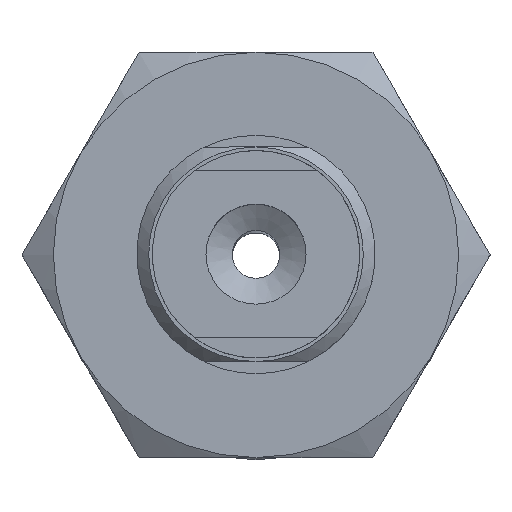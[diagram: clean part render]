
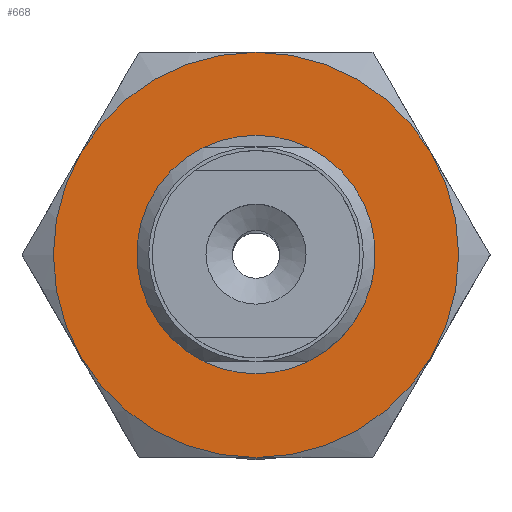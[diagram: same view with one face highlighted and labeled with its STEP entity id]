
A CAD part, top view. The second image highlights one B-rep face of the part: STEP entity #668.
In plain terms, the highlighted planar face has unit normal (0, 0, 1).
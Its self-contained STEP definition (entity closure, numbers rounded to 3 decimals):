
#668=ADVANCED_FACE('',(#875,#876),#877,.T.);
#875=FACE_BOUND('',#1220,.T.);
#876=FACE_OUTER_BOUND('',#1221,.T.);
#877=PLANE('',#1222);
#1220=EDGE_LOOP('',(#2735));
#1221=EDGE_LOOP('',(#2736,#2737,#2738,#2739,#2740,#2741));
#1222=AXIS2_PLACEMENT_3D('',#2742,#2743,#2744);
#2735=ORIENTED_EDGE('',*,*,#3480,.F.);
#2736=ORIENTED_EDGE('',*,*,#3481,.F.);
#2737=ORIENTED_EDGE('',*,*,#3474,.F.);
#2738=ORIENTED_EDGE('',*,*,#3450,.F.);
#2739=ORIENTED_EDGE('',*,*,#3453,.F.);
#2740=ORIENTED_EDGE('',*,*,#3482,.F.);
#2741=ORIENTED_EDGE('',*,*,#3483,.F.);
#2742=CARTESIAN_POINT('',(-9.815,-8.5,4.0));
#2743=DIRECTION('',(0.0,0.0,1.0));
#2744=DIRECTION('',(1.0,0.0,0.0));
#3450=EDGE_CURVE('',#3728,#3729,#3730,.T.);
#3453=EDGE_CURVE('',#3734,#3728,#3735,.T.);
#3474=EDGE_CURVE('',#3729,#3769,#3770,.T.);
#3480=EDGE_CURVE('',#3778,#3778,#3779,.T.);
#3481=EDGE_CURVE('',#3769,#3780,#3781,.T.);
#3482=EDGE_CURVE('',#3782,#3734,#3783,.T.);
#3483=EDGE_CURVE('',#3780,#3782,#3784,.T.);
#3728=VERTEX_POINT('',#4255);
#3729=VERTEX_POINT('',#4256);
#3730=CIRCLE('',#4257,8.5);
#3734=VERTEX_POINT('',#4269);
#3735=CIRCLE('',#4270,8.5);
#3769=VERTEX_POINT('',#4350);
#3770=CIRCLE('',#4351,8.5);
#3778=VERTEX_POINT('',#4376);
#3779=CIRCLE('',#4377,4.5);
#3780=VERTEX_POINT('',#4378);
#3781=CIRCLE('',#4379,8.5);
#3782=VERTEX_POINT('',#4380);
#3783=CIRCLE('',#4381,8.5);
#3784=CIRCLE('',#4382,8.5);
#4255=CARTESIAN_POINT('',(7.361,4.25,4.0));
#4256=CARTESIAN_POINT('',(7.361,-4.25,4.0));
#4257=AXIS2_PLACEMENT_3D('',#5056,#5057,#5058);
#4269=CARTESIAN_POINT('',(0.,8.5,4.0));
#4270=AXIS2_PLACEMENT_3D('',#5059,#5060,#5061);
#4350=CARTESIAN_POINT('',(0.,-8.5,4.0));
#4351=AXIS2_PLACEMENT_3D('',#5085,#5086,#5087);
#4376=CARTESIAN_POINT('',(0.0,-4.5,4.0));
#4377=AXIS2_PLACEMENT_3D('',#5089,#5090,#5091);
#4378=CARTESIAN_POINT('',(-7.361,-4.25,4.0));
#4379=AXIS2_PLACEMENT_3D('',#5092,#5093,#5094);
#4380=CARTESIAN_POINT('',(-7.361,4.25,4.0));
#4381=AXIS2_PLACEMENT_3D('',#5095,#5096,#5097);
#4382=AXIS2_PLACEMENT_3D('',#5098,#5099,#5100);
#5056=CARTESIAN_POINT('',(0.,0.,4.0));
#5057=DIRECTION('',(0.,0.,-1.0));
#5058=DIRECTION('',(0.866,0.5,0.));
#5059=CARTESIAN_POINT('',(0.,0.,4.0));
#5060=DIRECTION('',(0.,0.,-1.0));
#5061=DIRECTION('',(0.866,0.5,0.));
#5085=CARTESIAN_POINT('',(0.,0.,4.0));
#5086=DIRECTION('',(0.,0.,-1.0));
#5087=DIRECTION('',(0.866,0.5,0.));
#5089=CARTESIAN_POINT('',(0.0,0.0,4.0));
#5090=DIRECTION('',(0.0,0.,1.0));
#5091=DIRECTION('',(0.0,-1.0,0.));
#5092=CARTESIAN_POINT('',(0.,0.,4.0));
#5093=DIRECTION('',(0.,0.,-1.0));
#5094=DIRECTION('',(0.866,0.5,0.));
#5095=CARTESIAN_POINT('',(0.,0.,4.0));
#5096=DIRECTION('',(0.,0.,-1.0));
#5097=DIRECTION('',(0.866,0.5,0.));
#5098=CARTESIAN_POINT('',(0.,0.,4.0));
#5099=DIRECTION('',(0.,0.,-1.0));
#5100=DIRECTION('',(0.866,0.5,0.));
